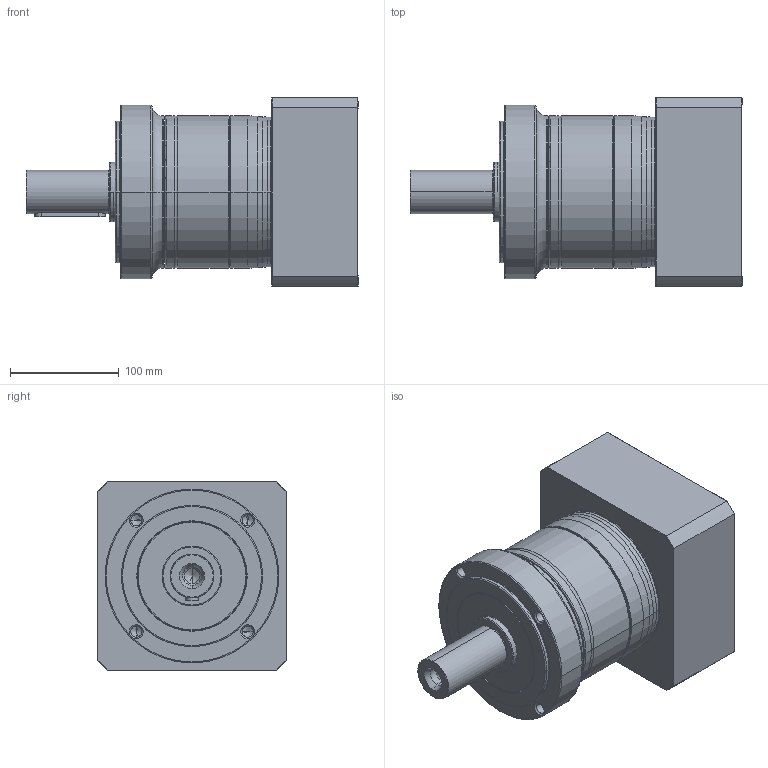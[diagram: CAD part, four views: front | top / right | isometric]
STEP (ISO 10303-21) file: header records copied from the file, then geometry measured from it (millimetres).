
FILE_DESCRIPTION((''),'2;1');
FILE_NAME('PG2-160_1ST_38-P0411900101_ASM','2016-04-12T',('d01943'),(''),'PRO/ENGINEER BY PARAMETRIC TECHNOLOGY CORPORATION, 2008410','PRO/ENGINEER BY PARAMETRIC TECHNOLOGY CORPORATION, 2008410','');
FILE_SCHEMA(('CONFIG_CONTROL_DESIGN'));
Length unit declared in the file: millimetre
Products named in the file (9): P1325510001; P0250500001; P1324500501; P0350501103; P0941505001; P0503900010; P0411900101; P1702600001; PG2-160_1ST_38-P0411900101_ASM
Assembly tree (8 placements, depth 2):
  PG2-160_1ST_38-P0411900101_ASM
    P1325510001
    P0250500001
    P1324500501
    P0350501103
    P0941505001
    P0503900010
    P0411900101
    P1702600001
Bounding box: 305.5 x 174 x 174 mm (x, y, z)
Volume: 3804267.8 mm3; surface area: 421028.2 mm2
Topology: 8 solids, 9 shells, 475 faces, 1046 edges, 601 vertices
Faces by surface type: cone 142, cylinder 140, torus 96, plane 79, bspline 18
Entity records: 17687 total; most frequent: CARTESIAN_POINT 7013, DIRECTION 2430, ORIENTED_EDGE 2024, AXIS2_PLACEMENT_3D 1042, EDGE_CURVE 1012, VERTEX_POINT 601, CIRCLE 568, EDGE_LOOP 539
